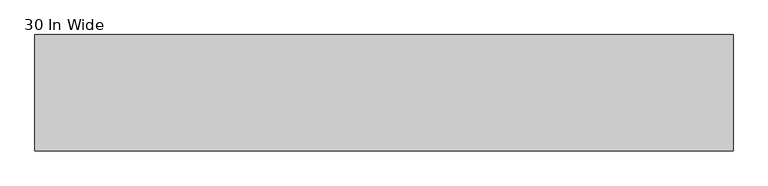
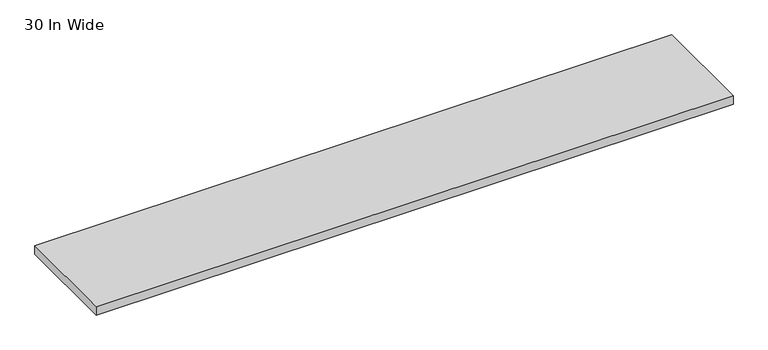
"""IFC4 building model written with IfcOpenShell, lengths in millimetres: proxy geometry, Header_Duct-Walkercell-Wiremold : 30 In Wide."""

from ifc_helpers import new_model, si_unit, frame, origin, place, context, project, spatial, polyline, outline, extrude, source, transform, mapped, element, save


def proxy_30_in_wide_520b242f(model_context):
    return source(origin(), model_context, "Body", "SweptSolid", [
        extrude(outline(polyline([(4572.0, 381.0), (4572.0, -381.0), (0.0, -381.0), (0.0, 381.0), (4572.0, 381.0)])), frame((0.0, 0.0, -63.5), z_axis=(0.0, 0.0, 1.0), x_axis=(1.0, 0.0, 0.0)), (0.0, 0.0, 1.0), 63.5),
    ])


if __name__ == "__main__":
    model = new_model("IFC4")
    model_context = context("Model", 3, world=origin())
    ifc_project = project(units=[si_unit("LENGTHUNIT", "METRE", prefix="MILLI")], contexts=[model_context])
    site = spatial("IfcSite", under=ifc_project)
    building = spatial("IfcBuilding", under=site)
    placement = place(None, origin())
    proxy_30_in_wide_shape = proxy_30_in_wide_520b242f(model_context)
    element("IfcBuildingElementProxy", 1, Name="Header_Duct-Walkercell-Wiremold : 30 In Wide", ObjectType="Header_Duct-Walkercell-Wiremold : 30 In Wide", at=placement, inside=building, context=model_context, shape_type="MappedRepresentation", body=[
        mapped(proxy_30_in_wide_shape, transform((0.0, 0.0, 0.0), x_axis=(1.0, 0.0, 0.0), y_axis=(0.0, 1.0, 0.0), z_axis=(0.0, 0.0, 1.0))),
    ])
    save(model, "model.ifc")
